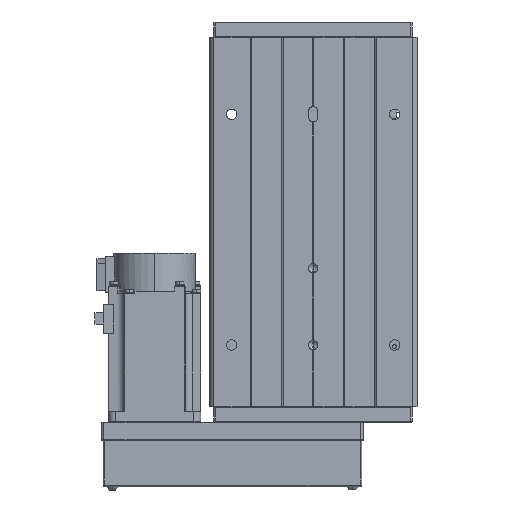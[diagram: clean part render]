
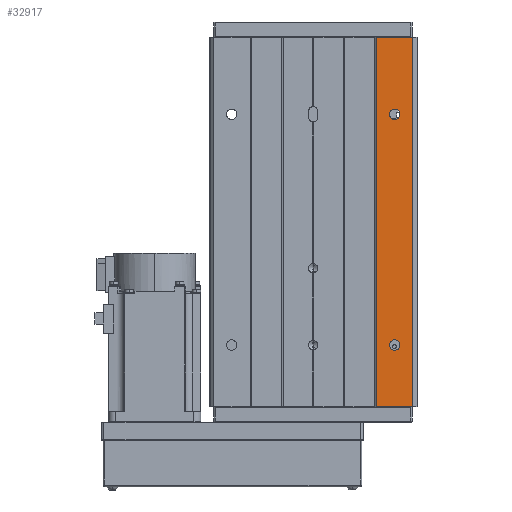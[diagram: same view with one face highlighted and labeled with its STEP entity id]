
A CAD part, front view. The second image highlights one B-rep face of the part: STEP entity #32917.
In plain terms, the highlighted planar face has unit normal (0, -1, 0).
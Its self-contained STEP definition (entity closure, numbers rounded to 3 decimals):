
#391 = VERTEX_POINT ( 'NONE', #33383 ) ;
#562 = AXIS2_PLACEMENT_3D ( 'NONE', #11880, #25281, #38580 ) ;
#627 = EDGE_CURVE ( 'NONE', #29725, #41624, #12550, .T. ) ;
#1560 = VECTOR ( 'NONE', #4599, 1000. ) ;
#1655 = DIRECTION ( 'NONE',  ( 0., 0., 1. ) ) ;
#1839 = FACE_BOUND ( 'NONE', #22511, .T. ) ;
#3088 = ORIENTED_EDGE ( 'NONE', *, *, #19174, .T. ) ;
#3165 = CARTESIAN_POINT ( 'NONE',  ( -53., -1., -70. ) ) ;
#4599 = DIRECTION ( 'NONE',  ( 0., 0., 1. ) ) ;
#7279 = DIRECTION ( 'NONE',  ( 1., 0., 0. ) ) ;
#9880 = LINE ( 'NONE', #23295, #38274 ) ;
#9996 = DIRECTION ( 'NONE',  ( 0., 1., 0. ) ) ;
#10038 = EDGE_LOOP ( 'NONE', ( #22595, #36444 ) ) ;
#10856 = ORIENTED_EDGE ( 'NONE', *, *, #16138, .T. ) ;
#11880 = CARTESIAN_POINT ( 'NONE',  ( -40., -1., 120. ) ) ;
#12550 = CIRCLE ( 'NONE', #37012, 3.4 ) ;
#12932 = ORIENTED_EDGE ( 'NONE', *, *, #21237, .F. ) ;
#13009 = EDGE_LOOP ( 'NONE', ( #23404, #12932, #10856, #37188 ) ) ;
#13337 = LINE ( 'NONE', #26715, #21731 ) ;
#13487 = AXIS2_PLACEMENT_3D ( 'NONE', #3165, #16530, #29894 ) ;
#13550 = EDGE_CURVE ( 'NONE', #13811, #22956, #23991, .T. ) ;
#13811 = VERTEX_POINT ( 'NONE', #19545 ) ;
#13951 = CARTESIAN_POINT ( 'NONE',  ( -53., -1., 83.4 ) ) ;
#14292 = ORIENTED_EDGE ( 'NONE', *, *, #16033, .T. ) ;
#15155 = FACE_BOUND ( 'NONE', #10038, .T. ) ;
#16033 = EDGE_CURVE ( 'NONE', #33050, #391, #18033, .T. ) ;
#16047 = CARTESIAN_POINT ( 'NONE',  ( -53., -1., -70. ) ) ;
#16138 = EDGE_CURVE ( 'NONE', #32364, #18752, #9880, .T. ) ;
#16530 = DIRECTION ( 'NONE',  ( 0., 1., 0. ) ) ;
#17537 = CARTESIAN_POINT ( 'NONE',  ( -41., -1., 120. ) ) ;
#18000 = CIRCLE ( 'NONE', #42416, 3.4 ) ;
#18033 = CIRCLE ( 'NONE', #42453, 3.4 ) ;
#18302 = CARTESIAN_POINT ( 'NONE',  ( -53., -1., 80. ) ) ;
#18752 = VERTEX_POINT ( 'NONE', #26235 ) ;
#19174 = EDGE_CURVE ( 'NONE', #391, #33050, #32380, .T. ) ;
#19545 = CARTESIAN_POINT ( 'NONE',  ( -64.5, -1., 120. ) ) ;
#20070 = VECTOR ( 'NONE', #7279, 1000. ) ;
#20143 = CARTESIAN_POINT ( 'NONE',  ( -53., -1., 76.6 ) ) ;
#21237 = EDGE_CURVE ( 'NONE', #32364, #13811, #13337, .T. ) ;
#21282 = LINE ( 'NONE', #34589, #1560 ) ;
#21731 = VECTOR ( 'NONE', #40029, 1000. ) ;
#22511 = EDGE_LOOP ( 'NONE', ( #3088, #14292 ) ) ;
#22595 = ORIENTED_EDGE ( 'NONE', *, *, #627, .T. ) ;
#22956 = VERTEX_POINT ( 'NONE', #17537 ) ;
#23295 = CARTESIAN_POINT ( 'NONE',  ( -40., -1., -120. ) ) ;
#23404 = ORIENTED_EDGE ( 'NONE', *, *, #13550, .F. ) ;
#23411 = DIRECTION ( 'NONE',  ( 0., 0., 1. ) ) ;
#23991 = LINE ( 'NONE', #37284, #20070 ) ;
#24217 = EDGE_CURVE ( 'NONE', #18752, #22956, #21282, .T. ) ;
#24686 = CARTESIAN_POINT ( 'NONE',  ( -64.5, -1., -120. ) ) ;
#25281 = DIRECTION ( 'NONE',  ( 0., 1., 0. ) ) ;
#26235 = CARTESIAN_POINT ( 'NONE',  ( -41., -1., -120. ) ) ;
#26715 = CARTESIAN_POINT ( 'NONE',  ( -64.5, -1., -120. ) ) ;
#28551 = FACE_OUTER_BOUND ( 'NONE', #13009, .T. ) ;
#29429 = DIRECTION ( 'NONE',  ( 0., 1., 0. ) ) ;
#29725 = VERTEX_POINT ( 'NONE', #13951 ) ;
#29894 = DIRECTION ( 'NONE',  ( 0., 0., 1. ) ) ;
#31638 = DIRECTION ( 'NONE',  ( 0., 1., 0. ) ) ;
#32364 = VERTEX_POINT ( 'NONE', #24686 ) ;
#32380 = CIRCLE ( 'NONE', #13487, 3.4 ) ;
#32917 = ADVANCED_FACE ( 'NONE', ( #1839, #15155, #28551 ), #41848, .F. ) ;
#33050 = VERTEX_POINT ( 'NONE', #33116 ) ;
#33116 = CARTESIAN_POINT ( 'NONE',  ( -53., -1., -73.4 ) ) ;
#33383 = CARTESIAN_POINT ( 'NONE',  ( -53., -1., -66.6 ) ) ;
#34589 = CARTESIAN_POINT ( 'NONE',  ( -41., -1., 120. ) ) ;
#35205 = EDGE_CURVE ( 'NONE', #41624, #29725, #18000, .T. ) ;
#36444 = ORIENTED_EDGE ( 'NONE', *, *, #35205, .T. ) ;
#36591 = DIRECTION ( 'NONE',  ( 1., 0., 0. ) ) ;
#37012 = AXIS2_PLACEMENT_3D ( 'NONE', #18302, #31638, #1655 ) ;
#37188 = ORIENTED_EDGE ( 'NONE', *, *, #24217, .T. ) ;
#37284 = CARTESIAN_POINT ( 'NONE',  ( -40., -1., 120. ) ) ;
#38274 = VECTOR ( 'NONE', #36591, 1000. ) ;
#38580 = DIRECTION ( 'NONE',  ( -1., 0., 0. ) ) ;
#39997 = CARTESIAN_POINT ( 'NONE',  ( -53., -1., 80. ) ) ;
#40029 = DIRECTION ( 'NONE',  ( 0., 0., 1. ) ) ;
#41624 = VERTEX_POINT ( 'NONE', #20143 ) ;
#41848 = PLANE ( 'NONE',  #562 ) ;
#42416 = AXIS2_PLACEMENT_3D ( 'NONE', #39997, #9996, #23411 ) ;
#42453 = AXIS2_PLACEMENT_3D ( 'NONE', #16047, #29429, #42721 ) ;
#42721 = DIRECTION ( 'NONE',  ( 0., 0., 1. ) ) ;
